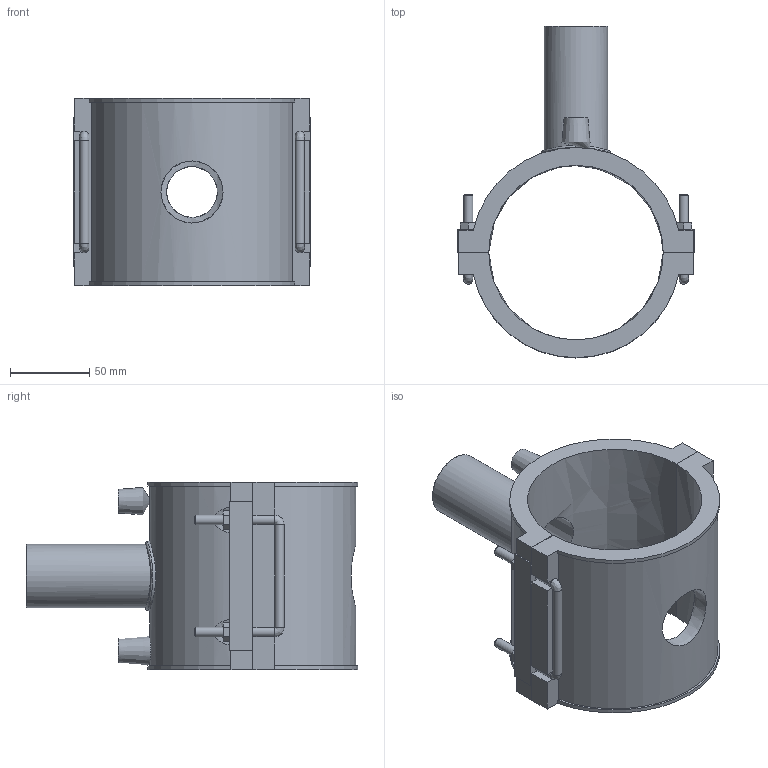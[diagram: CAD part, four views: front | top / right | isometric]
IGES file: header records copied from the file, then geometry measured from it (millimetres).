
Global section: file name: 495804110040.ipt; native system: Autodesk Inventor 2015; preprocessor: unknown; author: KIM; date: 20180426.120835; units: millimetre
Bounding box: 150 x 209.3 x 118 mm (x, y, z)
Volume: 541375.5 mm3; surface area: 138360.5 mm2
Topology: 2 solids, 2 shells, 133 faces, 340 edges, 214 vertices
Faces by surface type: plane 85, cylinder 22, revolution 10, bspline 9, cone 7
Full cylindrical faces by diameter (mm): 4 x2, 6 x10, 40 x1, 44 x1
